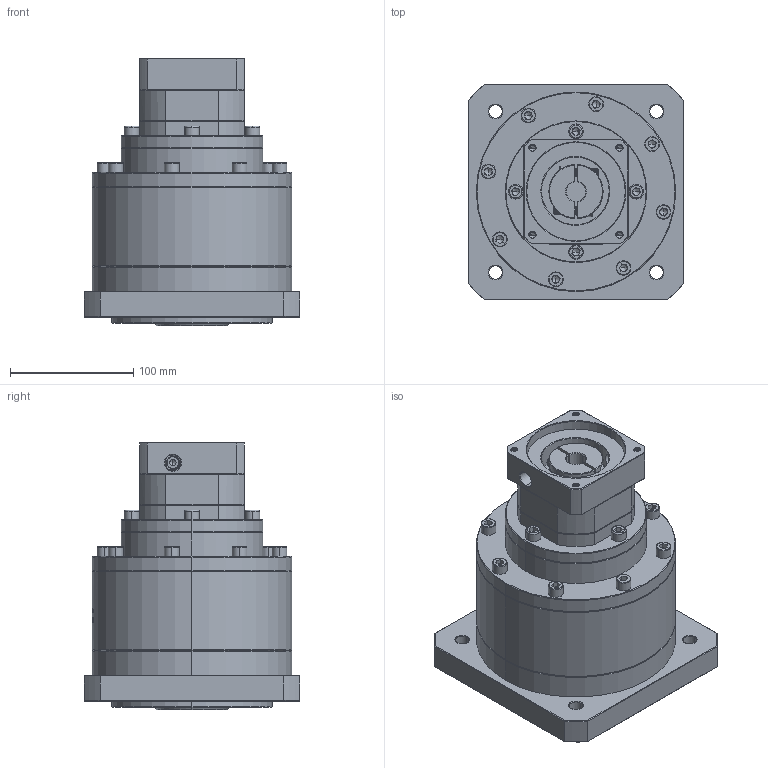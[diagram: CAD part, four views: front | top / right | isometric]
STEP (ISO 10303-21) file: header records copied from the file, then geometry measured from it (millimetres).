
FILE_DESCRIPTION (( 'STEP AP214' ), '1' );
FILE_NAME ('ZF160A-K35-L3-16-80-100-M6.step', '2023-03-22T07:12:18', ( '' ), ( '' ), 'SwSTEP 2.0', 'SolidWorks 2016', '' );
FILE_SCHEMA (( 'AUTOMOTIVE_DESIGN' ));
Length unit declared in the file: millimetre
Products named in the file (1): ZF160A-K35-L3-16-80-100-M6
Bounding box: 175 x 175 x 217.2 mm (x, y, z)
Volume: 3239284.8 mm3; surface area: 221567.3 mm2
Topology: 5 solids, 6 shells, 1790 faces, 4530 edges, 2859 vertices
Faces by surface type: plane 769, cylinder 427, cone 338, bspline 197, torus 59
Entity records: 90895 total; most frequent: CARTESIAN_POINT 30179, ORIENTED_EDGE 8956, DIRECTION 7914, EDGE_CURVE 4478, VERTEX_POINT 2859, AXIS2_PLACEMENT_3D 2736, LINE 2442, VECTOR 2442
